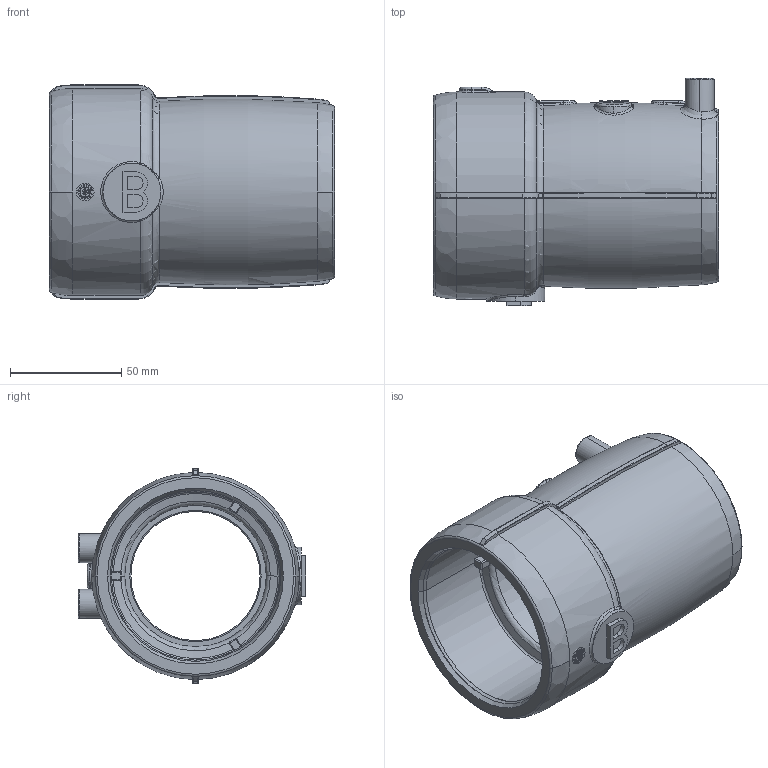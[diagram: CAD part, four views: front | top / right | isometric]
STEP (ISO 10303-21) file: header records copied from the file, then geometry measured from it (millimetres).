
FILE_DESCRIPTION (( 'STEP AP203' ), '1' );
FILE_NAME ('KP_T75-63B-L.STEP', '2012-01-18T10:27:16', ( '' ), ( '' ), 'SwSTEP 2.0', 'SolidWorks 2012', '' );
FILE_SCHEMA (( 'CONFIG_CONTROL_DESIGN' ));
Length unit declared in the file: millimetre
Products named in the file (1): KP_T75-63B-L
Bounding box: 128 x 102.13 x 96.2 mm (x, y, z)
Volume: 295846.6 mm3; surface area: 158151 mm2
Topology: 5 solids, 9 shells, 1860 faces, 4612 edges, 2798 vertices
Faces by surface type: plane 627, cylinder 587, bspline 280, torus 142, sphere 124, cone 100
Entity records: 85334 total; most frequent: CARTESIAN_POINT 45238, ORIENTED_EDGE 9076, DIRECTION 7472, EDGE_CURVE 4538, AXIS2_PLACEMENT_3D 2842, VERTEX_POINT 2796, EDGE_LOOP 1970, ADVANCED_FACE 1860
